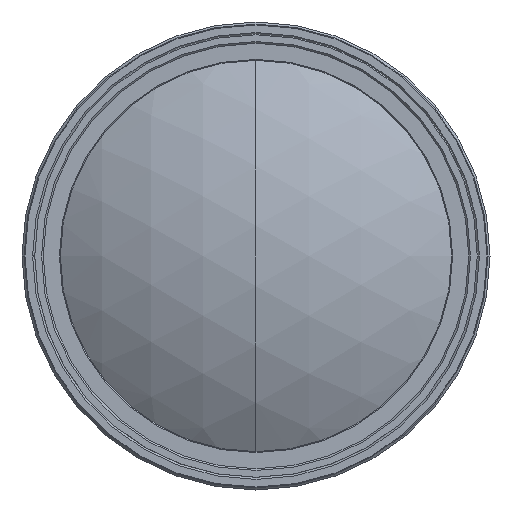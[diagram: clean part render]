
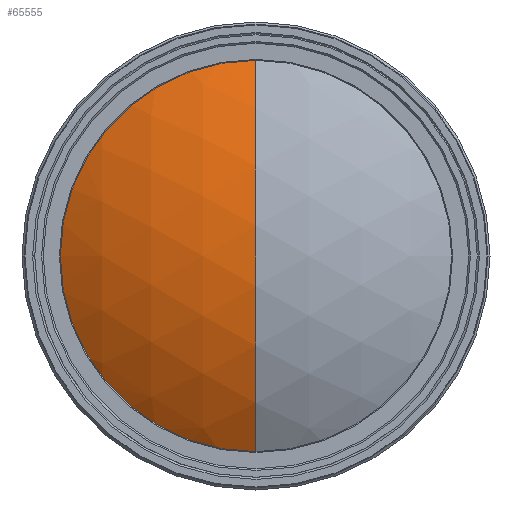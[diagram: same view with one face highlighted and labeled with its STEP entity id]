
A CAD part, left-side view. The second image highlights one B-rep face of the part: STEP entity #65555.
In plain terms, the highlighted spherical face has radius 41.702 mm.
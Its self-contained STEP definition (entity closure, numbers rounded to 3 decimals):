
#65555 = ADVANCED_FACE('',(#65556),#65571,.T.);
#65556 = FACE_BOUND('',#65557,.T.);
#65557 = EDGE_LOOP('',(#65558,#65616,#65645));
#65558 = ORIENTED_EDGE('',*,*,#65559,.T.);
#65559 = EDGE_CURVE('',#65560,#65562,#65564,.T.);
#65560 = VERTEX_POINT('',#65561);
#65561 = CARTESIAN_POINT('',(-62.689,23.5,
    0.));
#65562 = VERTEX_POINT('',#65563);
#65563 = CARTESIAN_POINT('',(-62.689,0.,
    -23.5));
#65564 = SURFACE_CURVE('',#65565,(#65570,#65604),.PCURVE_S1.);
#65565 = CIRCLE('',#65566,23.5);
#65566 = AXIS2_PLACEMENT_3D('',#65567,#65568,#65569);
#65567 = CARTESIAN_POINT('',(-62.689,0.,0.));
#65568 = DIRECTION('',(-1.,0.,0.));
#65569 = DIRECTION('',(0.,-1.,0.));
#65570 = PCURVE('',#65571,#65576);
#65571 = SPHERICAL_SURFACE('',#65572,41.702);
#65572 = AXIS2_PLACEMENT_3D('',#65573,#65574,#65575);
#65573 = CARTESIAN_POINT('',(-28.239,0.,0.));
#65574 = DIRECTION('',(0.,1.,0.));
#65575 = DIRECTION('',(1.,0.,0.));
#65576 = DEFINITIONAL_REPRESENTATION('',(#65577),#65603);
#65577 = B_SPLINE_CURVE_WITH_KNOTS('',3,(#65578,#65579,#65580,#65581,
    #65582,#65583,#65584,#65585,#65586,#65587,#65588,#65589,#65590,
    #65591,#65592,#65593,#65594,#65595,#65596,#65597,#65598,#65599,
    #65600,#65601,#65602),.UNSPECIFIED.,.F.,.F.,(4,1,1,1,1,1,1,1,1,1,1,1
    ,1,1,1,1,1,1,1,1,1,1,4),(3.142,3.213,3.284
    ,3.356,3.427,3.499,3.57,
    3.641,3.713,3.784,3.856,
    3.927,3.998,4.07,4.141,
    4.213,4.284,4.355,4.427,
    4.498,4.57,4.641,4.712),
  .QUASI_UNIFORM_KNOTS.);
#65578 = CARTESIAN_POINT('',(3.142,0.599));
#65579 = CARTESIAN_POINT('',(3.125,0.599));
#65580 = CARTESIAN_POINT('',(3.093,0.597));
#65581 = CARTESIAN_POINT('',(3.045,0.592));
#65582 = CARTESIAN_POINT('',(2.997,0.584));
#65583 = CARTESIAN_POINT('',(2.951,0.572));
#65584 = CARTESIAN_POINT('',(2.907,0.557));
#65585 = CARTESIAN_POINT('',(2.865,0.539));
#65586 = CARTESIAN_POINT('',(2.825,0.518));
#65587 = CARTESIAN_POINT('',(2.788,0.494));
#65588 = CARTESIAN_POINT('',(2.753,0.468));
#65589 = CARTESIAN_POINT('',(2.721,0.44));
#65590 = CARTESIAN_POINT('',(2.692,0.41));
#65591 = CARTESIAN_POINT('',(2.665,0.378));
#65592 = CARTESIAN_POINT('',(2.641,0.345));
#65593 = CARTESIAN_POINT('',(2.62,0.31));
#65594 = CARTESIAN_POINT('',(2.602,0.274));
#65595 = CARTESIAN_POINT('',(2.586,0.236));
#65596 = CARTESIAN_POINT('',(2.572,0.198));
#65597 = CARTESIAN_POINT('',(2.562,0.16));
#65598 = CARTESIAN_POINT('',(2.553,0.12));
#65599 = CARTESIAN_POINT('',(2.547,0.08));
#65600 = CARTESIAN_POINT('',(2.544,0.04));
#65601 = CARTESIAN_POINT('',(2.543,0.013));
#65602 = CARTESIAN_POINT('',(2.543,0.));
#65603 = ( GEOMETRIC_REPRESENTATION_CONTEXT(2) 
PARAMETRIC_REPRESENTATION_CONTEXT() REPRESENTATION_CONTEXT('',''
  ) );
#65604 = PCURVE('',#65605,#65610);
#65605 = CYLINDRICAL_SURFACE('',#65606,23.5);
#65606 = AXIS2_PLACEMENT_3D('',#65607,#65608,#65609);
#65607 = CARTESIAN_POINT('',(-61.819,0.,0.));
#65608 = DIRECTION('',(1.,0.,0.));
#65609 = DIRECTION('',(0.,-1.,0.));
#65610 = DEFINITIONAL_REPRESENTATION('',(#65611),#65615);
#65611 = LINE('',#65612,#65613);
#65612 = CARTESIAN_POINT('',(6.283,-0.87));
#65613 = VECTOR('',#65614,1.);
#65614 = DIRECTION('',(-1.,0.));
#65615 = ( GEOMETRIC_REPRESENTATION_CONTEXT(2) 
PARAMETRIC_REPRESENTATION_CONTEXT() REPRESENTATION_CONTEXT('',''
  ) );
#65616 = ORIENTED_EDGE('',*,*,#65617,.T.);
#65617 = EDGE_CURVE('',#65562,#65618,#65620,.T.);
#65618 = VERTEX_POINT('',#65619);
#65619 = CARTESIAN_POINT('',(-62.689,0.,
    23.5));
#65620 = SURFACE_CURVE('',#65621,(#65626,#65633),.PCURVE_S1.);
#65621 = CIRCLE('',#65622,41.702);
#65622 = AXIS2_PLACEMENT_3D('',#65623,#65624,#65625);
#65623 = CARTESIAN_POINT('',(-28.239,0.,0.));
#65624 = DIRECTION('',(0.,1.,-0.));
#65625 = DIRECTION('',(-1.,0.,0.));
#65626 = PCURVE('',#65571,#65627);
#65627 = DEFINITIONAL_REPRESENTATION('',(#65628),#65632);
#65628 = LINE('',#65629,#65630);
#65629 = CARTESIAN_POINT('',(-3.142,0.));
#65630 = VECTOR('',#65631,1.);
#65631 = DIRECTION('',(1.,0.));
#65632 = ( GEOMETRIC_REPRESENTATION_CONTEXT(2) 
PARAMETRIC_REPRESENTATION_CONTEXT() REPRESENTATION_CONTEXT('',''
  ) );
#65633 = PCURVE('',#65634,#65639);
#65634 = SPHERICAL_SURFACE('',#65635,41.702);
#65635 = AXIS2_PLACEMENT_3D('',#65636,#65637,#65638);
#65636 = CARTESIAN_POINT('',(-28.239,0.,0.));
#65637 = DIRECTION('',(0.,1.,0.));
#65638 = DIRECTION('',(1.,0.,0.));
#65639 = DEFINITIONAL_REPRESENTATION('',(#65640),#65644);
#65640 = LINE('',#65641,#65642);
#65641 = CARTESIAN_POINT('',(-3.142,0.));
#65642 = VECTOR('',#65643,1.);
#65643 = DIRECTION('',(1.,0.));
#65644 = ( GEOMETRIC_REPRESENTATION_CONTEXT(2) 
PARAMETRIC_REPRESENTATION_CONTEXT() REPRESENTATION_CONTEXT('',''
  ) );
#65645 = ORIENTED_EDGE('',*,*,#65646,.T.);
#65646 = EDGE_CURVE('',#65618,#65560,#65647,.T.);
#65647 = SURFACE_CURVE('',#65648,(#65653,#65682),.PCURVE_S1.);
#65648 = CIRCLE('',#65649,23.5);
#65649 = AXIS2_PLACEMENT_3D('',#65650,#65651,#65652);
#65650 = CARTESIAN_POINT('',(-62.689,0.,0.));
#65651 = DIRECTION('',(-1.,0.,0.));
#65652 = DIRECTION('',(0.,-1.,0.));
#65653 = PCURVE('',#65571,#65654);
#65654 = DEFINITIONAL_REPRESENTATION('',(#65655),#65681);
#65655 = B_SPLINE_CURVE_WITH_KNOTS('',3,(#65656,#65657,#65658,#65659,
    #65660,#65661,#65662,#65663,#65664,#65665,#65666,#65667,#65668,
    #65669,#65670,#65671,#65672,#65673,#65674,#65675,#65676,#65677,
    #65678,#65679,#65680),.UNSPECIFIED.,.F.,.F.,(4,1,1,1,1,1,1,1,1,1,1,1
    ,1,1,1,1,1,1,1,1,1,1,4),(1.571,1.642,
    1.714,1.785,1.856,1.928,
    1.999,2.071,2.142,2.213,
    2.285,2.356,2.428,2.499,
    2.57,2.642,2.713,2.785,
    2.856,2.927,2.999,3.07,
    3.142),.QUASI_UNIFORM_KNOTS.);
#65656 = CARTESIAN_POINT('',(3.74,0.));
#65657 = CARTESIAN_POINT('',(3.74,0.013));
#65658 = CARTESIAN_POINT('',(3.739,0.04));
#65659 = CARTESIAN_POINT('',(3.736,0.08));
#65660 = CARTESIAN_POINT('',(3.73,0.12));
#65661 = CARTESIAN_POINT('',(3.722,0.16));
#65662 = CARTESIAN_POINT('',(3.711,0.198));
#65663 = CARTESIAN_POINT('',(3.697,0.236));
#65664 = CARTESIAN_POINT('',(3.681,0.274));
#65665 = CARTESIAN_POINT('',(3.663,0.31));
#65666 = CARTESIAN_POINT('',(3.642,0.345));
#65667 = CARTESIAN_POINT('',(3.618,0.378));
#65668 = CARTESIAN_POINT('',(3.591,0.41));
#65669 = CARTESIAN_POINT('',(3.562,0.44));
#65670 = CARTESIAN_POINT('',(3.53,0.468));
#65671 = CARTESIAN_POINT('',(3.495,0.494));
#65672 = CARTESIAN_POINT('',(3.458,0.518));
#65673 = CARTESIAN_POINT('',(3.418,0.539));
#65674 = CARTESIAN_POINT('',(3.376,0.557));
#65675 = CARTESIAN_POINT('',(3.332,0.572));
#65676 = CARTESIAN_POINT('',(3.286,0.584));
#65677 = CARTESIAN_POINT('',(3.239,0.592));
#65678 = CARTESIAN_POINT('',(3.19,0.597));
#65679 = CARTESIAN_POINT('',(3.158,0.599));
#65680 = CARTESIAN_POINT('',(3.142,0.599));
#65681 = ( GEOMETRIC_REPRESENTATION_CONTEXT(2) 
PARAMETRIC_REPRESENTATION_CONTEXT() REPRESENTATION_CONTEXT('',''
  ) );
#65682 = PCURVE('',#65683,#65688);
#65683 = CYLINDRICAL_SURFACE('',#65684,23.5);
#65684 = AXIS2_PLACEMENT_3D('',#65685,#65686,#65687);
#65685 = CARTESIAN_POINT('',(-61.819,0.,0.));
#65686 = DIRECTION('',(1.,0.,0.));
#65687 = DIRECTION('',(0.,-1.,0.));
#65688 = DEFINITIONAL_REPRESENTATION('',(#65689),#65693);
#65689 = LINE('',#65690,#65691);
#65690 = CARTESIAN_POINT('',(6.283,-0.87));
#65691 = VECTOR('',#65692,1.);
#65692 = DIRECTION('',(-1.,0.));
#65693 = ( GEOMETRIC_REPRESENTATION_CONTEXT(2) 
PARAMETRIC_REPRESENTATION_CONTEXT() REPRESENTATION_CONTEXT('',''
  ) );
